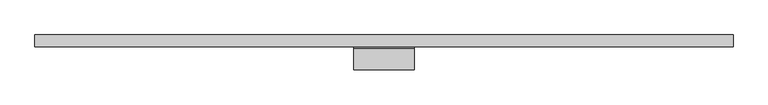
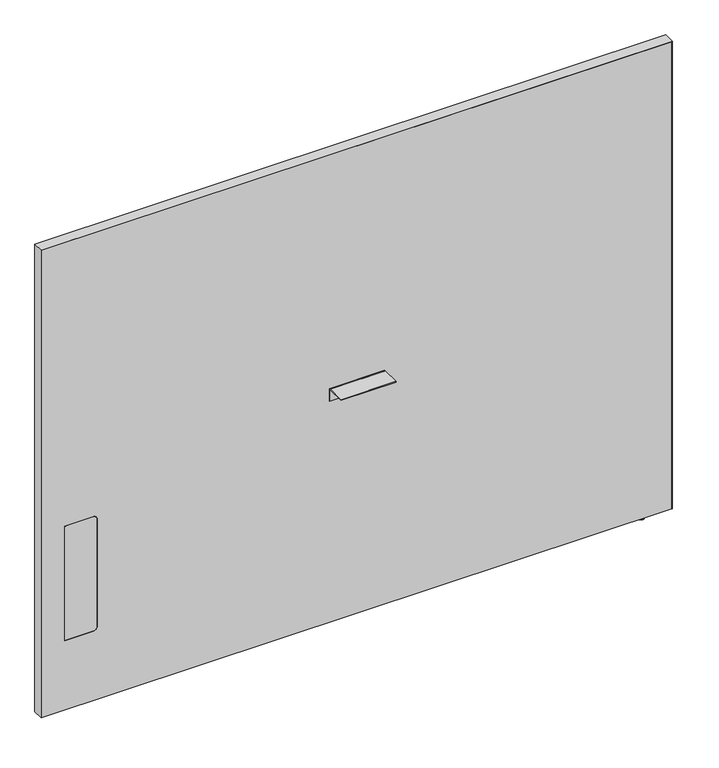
"""IFC4 building model written with IfcOpenShell, lengths in millimetres: furniture geometry, Steelcase - Answer Solution - Boundary Screen - Straight - Single Sided : 54H x 69W."""

import ifcopenshell
import ifcopenshell.guid

model = None  # the IFC model being written
_history = None  # IfcOwnerHistory: only IFC2X3 demands one
_inside = {}  # id of a spatial element -> (the spatial element, [elements in it])
_under = {}  # id of a project, library or spatial element -> (it, [spatial elements below it])
_declared = {}  # id of a project -> (the project, [libraries it declares])
_typed = {}  # id of a type object -> (the type object, [elements of that type])
_made_of = {}  # id of a material, layer set ... -> (it, [elements and type objects made of it])


def new_model(schema):
    """Start an empty IFC model of exactly this schema.

    Asked for "IFC4X3", IfcOpenShell would pick the latest addendum, in which some entities
    have other attributes; the version numbers below select the first issue.
    IFC2X3 requires an IfcOwnerHistory on every rooted entity: one is made here for all.
    """
    global model, _history
    if schema == "IFC4X3":
        model = ifcopenshell.file(schema_version=(4, 3, 0, 0))
    else:
        model = ifcopenshell.file(schema=schema)
    _inside.clear()
    _under.clear()
    _declared.clear()
    _typed.clear()
    _made_of.clear()
    _history = None
    if model.schema == "IFC2X3":
        org = make("IfcOrganization", Name="unknown")
        user = make(
            "IfcPersonAndOrganization",
            ThePerson=make("IfcPerson", FamilyName="unknown"),
            TheOrganization=org,
        )
        app = make(
            "IfcApplication",
            ApplicationDeveloper=org,
            Version="unknown",
            ApplicationFullName="unknown",
            ApplicationIdentifier="unknown",
        )
        _history = make(
            "IfcOwnerHistory",
            OwningUser=user,
            OwningApplication=app,
            ChangeAction="ADDED",
            CreationDate=0,
        )
    return model


def make(cls, **values):
    """One entity of the class cls with the attributes given. An attribute that is None is left unset."""
    return model.create_entity(
        cls, **{name: value for name, value in values.items() if value is not None}
    )


def rooted(cls, **values):
    """An entity with a GlobalId (a new one), such as an element, a storey or a relation."""
    return make(cls, GlobalId=ifcopenshell.guid.new(), OwnerHistory=_history, **values)


def si_unit(unit_type, name, prefix=None):
    """IfcSIUnit, for example si_unit("LENGTHUNIT", "METRE", prefix="MILLI")."""
    return make("IfcSIUnit", UnitType=unit_type, Prefix=prefix, Name=name)


def assignment(units):
    """IfcUnitAssignment: the units of a project."""
    return None if units is None else make("IfcUnitAssignment", Units=units)


def point(xyz):
    """IfcCartesianPoint."""
    return None if xyz is None else make("IfcCartesianPoint", Coordinates=xyz)


def direction(xyz):
    """IfcDirection."""
    return None if xyz is None else make("IfcDirection", DirectionRatios=xyz)


def frame(location, z_axis=None, x_axis=None):
    """IfcAxis2Placement3D, a coordinate frame: its origin and axes. An axis left out is left unset."""
    return make(
        "IfcAxis2Placement3D",
        Location=point(location),
        Axis=direction(z_axis),
        RefDirection=direction(x_axis),
    )


def frame_2d(location, x_axis=None):
    """IfcAxis2Placement2D, a coordinate frame in the plane: its origin and x axis."""
    return make(
        "IfcAxis2Placement2D", Location=point(location), RefDirection=direction(x_axis)
    )


def origin():
    """The frame at (0, 0, 0) with its axes left unset."""
    return frame((0.0, 0.0, 0.0))


def place(relative_to, where):
    """IfcLocalPlacement: puts the frame where relative to a parent placement (None: the world)."""
    return make(
        "IfcLocalPlacement", PlacementRelTo=relative_to, RelativePlacement=where
    )


def context(
    kind, dimensions, precision=None, world=None, true_north=None, identifier=None
):
    """IfcGeometricRepresentationContext, for example the 3D "Model" context."""
    return make(
        "IfcGeometricRepresentationContext",
        ContextIdentifier=identifier,
        ContextType=kind,
        CoordinateSpaceDimension=dimensions,
        Precision=precision,
        WorldCoordinateSystem=world,
        TrueNorth=true_north,
    )


def project(units=None, contexts=None):
    """IfcProject with its units and contexts."""
    return rooted(
        "IfcProject",
        Name="project",
        RepresentationContexts=contexts,
        UnitsInContext=assignment(units),
    )


def spatial(cls, under=None, at=None, **own):
    """A site, building, storey or space (cls), placed at a placement, below another one or the project."""
    s = rooted(cls, ObjectPlacement=at, **own)
    if under is not None:
        _under.setdefault(under.id(), (under, []))[1].append(s)
    return s


def polyline(points):
    """IfcPolyline through the points."""
    return make("IfcPolyline", Points=[point(p) for p in points])


def circle_curve(where, radius):
    """IfcCircle in the frame where."""
    return make("IfcCircle", Position=where, Radius=radius)


def ellipse_curve(where, semi_axis1, semi_axis2):
    """IfcEllipse in the frame where."""
    return make(
        "IfcEllipse", Position=where, SemiAxis1=semi_axis1, SemiAxis2=semi_axis2
    )


def trimmed(basis, trim1, trim2, sense, master):
    """IfcTrimmedCurve: the piece of a basis curve between two trims."""
    return make(
        "IfcTrimmedCurve",
        BasisCurve=basis,
        Trim1=trim1,
        Trim2=trim2,
        SenseAgreement=sense,
        MasterRepresentation=master,
    )


def segment(curve, same_sense, transition):
    """IfcCompositeCurveSegment."""
    return make(
        "IfcCompositeCurveSegment",
        Transition=transition,
        SameSense=same_sense,
        ParentCurve=curve,
    )


def composite_curve(segments, self_intersect=None):
    """IfcCompositeCurve: segments joined end to end."""
    return make("IfcCompositeCurve", Segments=segments, SelfIntersect=self_intersect)


def outline(outer, holes=None, kind="AREA"):
    """IfcArbitraryClosedProfileDef: a profile drawn as a closed curve; with holes, ...WithVoids."""
    if holes is None:
        return make("IfcArbitraryClosedProfileDef", ProfileType=kind, OuterCurve=outer)
    return make(
        "IfcArbitraryProfileDefWithVoids",
        ProfileType=kind,
        OuterCurve=outer,
        InnerCurves=holes,
    )


def extrude(swept, where, along, depth):
    """IfcExtrudedAreaSolid: the profile swept, set in the frame where, extruded along a direction by depth."""
    return make(
        "IfcExtrudedAreaSolid",
        SweptArea=swept,
        Position=where,
        ExtrudedDirection=direction(along),
        Depth=depth,
    )


def shape(context_of_items, identifier, shape_type, items):
    """IfcShapeRepresentation: the items that make up one representation, for example the "Body"."""
    return make(
        "IfcShapeRepresentation",
        ContextOfItems=context_of_items,
        RepresentationIdentifier=identifier,
        RepresentationType=shape_type,
        Items=items,
    )


def source(mapping_origin, context_of_items, identifier, shape_type, items):
    """IfcRepresentationMap: a shape defined once, which mapped items show again and again."""
    return make(
        "IfcRepresentationMap",
        MappingOrigin=mapping_origin,
        MappedRepresentation=shape(context_of_items, identifier, shape_type, items),
    )


def transform(
    local_origin,
    x_axis=None,
    y_axis=None,
    z_axis=None,
    scale=None,
    scale2=None,
    scale3=None,
    uniform=True,
):
    """IfcCartesianTransformationOperator3D, or its non-uniform kind. x_axis, y_axis, z_axis: its Axis1, 2, 3."""
    if uniform:
        return make(
            "IfcCartesianTransformationOperator3D",
            Axis1=direction(x_axis),
            Axis2=direction(y_axis),
            LocalOrigin=point(local_origin),
            Scale=scale,
            Axis3=direction(z_axis),
        )
    return make(
        "IfcCartesianTransformationOperator3DnonUniform",
        Axis1=direction(x_axis),
        Axis2=direction(y_axis),
        LocalOrigin=point(local_origin),
        Scale=scale,
        Axis3=direction(z_axis),
        Scale2=scale2,
        Scale3=scale3,
    )


def mapped(mapping_source, mapping_target):
    """IfcMappedItem: shows the shape of a source again, moved by a transform."""
    return make(
        "IfcMappedItem", MappingSource=mapping_source, MappingTarget=mapping_target
    )


def made_of(thing, what):
    """Note that an element or type object is made of a material, layer set ...; save() writes the relation."""
    if what is not None:
        _made_of.setdefault(what.id(), (what, []))[1].append(thing)
    return thing


def element(
    cls,
    number,
    at=None,
    inside=None,
    cuts=None,
    type_object=None,
    material=None,
    context=None,
    identifier="Body",
    shape_type=None,
    held_by="IfcProductDefinitionShape",
    body=None,
    shapes=None,
    **own,
):
    """One element of the class cls, such as IfcWall. Its Tag is "e" and its number.

    at: its placement. inside: the storey or other place that contains it. cuts: it is an
    opening in that element (IfcRelVoidsElement). A single representation is given by context,
    identifier, shape_type and body (its items); several are given by shapes. held_by: the class
    of the entity that holds the representations. save() writes the other relations.
    """
    e = rooted(cls, Tag="e%d" % number, ObjectPlacement=at, **own)
    if body is not None:
        shapes = [shape(context, identifier, shape_type, body)]
    if shapes is not None:
        e.Representation = make(held_by, Representations=shapes)
    if inside is not None:
        _inside.setdefault(inside.id(), (inside, []))[1].append(e)
    if cuts is not None:
        rooted(
            "IfcRelVoidsElement", RelatingBuildingElement=cuts, RelatedOpeningElement=e
        )
    if type_object is not None:
        _typed.setdefault(type_object.id(), (type_object, []))[1].append(e)
    return made_of(e, material)


def aggregate(whole, parts):
    """IfcRelAggregates: a whole, such as a stair, and the parts it consists of."""
    return rooted("IfcRelAggregates", RelatingObject=whole, RelatedObjects=parts)


def save(model, path):
    """Write the relations noted so far, then the file.

    IfcRelAggregates (storeys below a building ...), IfcRelContainedInSpatialStructure (elements
    in a storey), IfcRelDefinesByType, IfcRelAssociatesMaterial and IfcRelDeclares: one each for
    every whole, place, type object, material and project.
    """
    for whole, parts in _under.values():
        aggregate(whole, parts)
    for where, things in _inside.values():
        rooted(
            "IfcRelContainedInSpatialStructure",
            RelatedElements=things,
            RelatingStructure=where,
        )
    for kind, things in _typed.values():
        rooted("IfcRelDefinesByType", RelatedObjects=things, RelatingType=kind)
    for what, things in _made_of.values():
        rooted("IfcRelAssociatesMaterial", RelatedObjects=things, RelatingMaterial=what)
    for by, libraries in _declared.values():
        rooted("IfcRelDeclares", RelatingContext=by, RelatedDefinitions=libraries)
    model.write(path)


def plane_surface(at):
    """IfcPlane: the flat surface through the origin of the frame at, square to its z axis."""
    return make("IfcPlane", Position=at)


def cylinder_surface(at, radius):
    """IfcCylindricalSurface: all points at the distance radius from the z axis of the frame at."""
    return make("IfcCylindricalSurface", Position=at, Radius=radius)


def revolved_surface(curve, axis_point, axis_direction):
    """IfcSurfaceOfRevolution: the curve turned about the line through axis_point along axis_direction."""
    return make(
        "IfcSurfaceOfRevolution",
        SweptCurve=make("IfcArbitraryOpenProfileDef", ProfileType="CURVE", Curve=curve),
        AxisPosition=make("IfcAxis1Placement", Location=point(axis_point), Axis=direction(axis_direction)),
    )


def advanced_brep(points, edges, surfaces, faces):
    """IfcAdvancedBrep: a solid bounded by faces that lie on surfaces and meet in shared edges.

    An edge is (start, end): straight between two places in points (the first is 0);
    or (start, end, curve); or (start, end, curve, False) where it runs against its curve.
    A face is (place in surfaces, loops), or (place, loops, False) where it looks against
    its surface's normal. A loop lists edges by number (the first is 1), with a minus sign
    where the edge is run from its end to its start. The first loop is the outer one.
    """
    corners = [point(p) for p in points]
    vertices = [make("IfcVertexPoint", VertexGeometry=c) for c in corners]
    made = []
    for start, end, *more in edges:
        made.append(
            make(
                "IfcEdgeCurve",
                EdgeStart=vertices[start],
                EdgeEnd=vertices[end],
                EdgeGeometry=more[0] if more else make("IfcPolyline", Points=[corners[start], corners[end]]),
                SameSense=more[1] if len(more) > 1 else True,
            )
        )
    hull = []
    for where, loops, *sense in faces:
        bounds = []
        for j, loop in enumerate(loops):
            ring = [make("IfcOrientedEdge", EdgeElement=made[abs(k) - 1], Orientation=k > 0) for k in loop]
            bounds.append(
                make(
                    "IfcFaceOuterBound" if j == 0 else "IfcFaceBound",
                    Bound=make("IfcEdgeLoop", EdgeList=ring),
                    Orientation=True,
                )
            )
        hull.append(make("IfcAdvancedFace", Bounds=bounds, FaceSurface=surfaces[where], SameSense=sense[0] if sense else True))
    return make("IfcAdvancedBrep", Outer=make("IfcClosedShell", CfsFaces=hull))


def furniture_8ace9f98(model_context):
    return source(origin(), model_context, "Body", "SolidModel", [
        extrude(outline(composite_curve([segment(polyline([(-86.8398151, 696.4680019), (-86.8398151, 698.5), (-34.9450855, 698.5)]), True, "CONTINUOUS"), segment(trimmed(circle_curve(frame_2d((-34.9450855, 693.2447477)), 5.2552523), [point((-34.9450855, 698.5))], [point((-29.6898332, 693.2447477))], False, "CARTESIAN"), True, "CONTINUOUS"), segment(polyline([(-29.6898332, 693.2447477), (-29.6898332, 660.4), (-31.7218162, 660.4), (-31.7218162, 693.0058743)]), True, "CONTINUOUS"), segment(trimmed(circle_curve(frame_2d((-35.1839438, 693.0058743)), 3.4621276), [point((-31.7218162, 693.0058743))], [point((-35.1839438, 696.4680019))], True, "CARTESIAN"), True, "CONTINUOUS"), segment(polyline([(-35.1839438, 696.4680019), (-86.8398151, 696.4680019)]), True, "CONTINUOUS")], self_intersect=False)), frame((153.6191407, 0.0, 0.0), z_axis=(1.0, 0.0, 0.0), x_axis=(0.0, 1.0, 0.0)), (0.0, 0.0, 1.0), 152.4000969),
        advanced_brep(
        [(1028.9286488, -23.7588726, 9.9059849), (1028.9286488, -5.9309607, 9.9059849), (1028.9286488, -14.8449166, 9.9059849), (1028.9286488, -23.7588726, 2.9673238), (1028.9286488, -5.9309607, 2.9673238), (1028.9286488, -22.7915354, 2.9673238), (1028.9286488, -6.8982978, 2.9673238), (1028.9286488, -22.7915354, 1.6569081), (1028.9286488, -6.8982978, 1.6569081), (1028.9286488, -21.1346274, 0.0), (1028.9286488, -8.5552059, 0.0), (1028.9286488, -14.8449166, 0.0)],
        [
            (0, 1, circle_curve(frame((1028.9286488, -14.8449166, 9.9059849), z_axis=(0.0, 0.0, 1.0), x_axis=(0.0, 1.0, 0.0)), 8.913956)),
            (1, 2),
            (2, 0),
            (1, 0, circle_curve(frame((1028.9286488, -14.8449166, 9.9059849), z_axis=(0.0, 0.0, 1.0), x_axis=(0.0, 1.0, 0.0)), 8.913956)),
            (3, 4, circle_curve(frame((1028.9286488, -14.8449166, 2.9673238), z_axis=(0.0, 0.0, 1.0), x_axis=(0.0, 1.0, 0.0)), 8.913956)),
            (4, 1),
            (0, 3),
            (4, 3, circle_curve(frame((1028.9286488, -14.8449166, 2.9673238), z_axis=(0.0, 0.0, 1.0), x_axis=(0.0, 1.0, 0.0)), 8.913956)),
            (5, 6, circle_curve(frame((1028.9286488, -14.8449166, 2.9673238), z_axis=(0.0, 0.0, 1.0), x_axis=(0.0, 1.0, 0.0)), 7.9466188)),
            (6, 4),
            (3, 5),
            (6, 5, circle_curve(frame((1028.9286488, -14.8449166, 2.9673238), z_axis=(0.0, 0.0, 1.0), x_axis=(0.0, 1.0, 0.0)), 7.9466188)),
            (7, 8, circle_curve(frame((1028.9286488, -14.8449166, 1.6569081), z_axis=(0.0, 0.0, 1.0), x_axis=(0.0, 1.0, 0.0)), 7.9466188)),
            (8, 6),
            (5, 7),
            (8, 7, circle_curve(frame((1028.9286488, -14.8449166, 1.6569081), z_axis=(0.0, 0.0, 1.0), x_axis=(0.0, 1.0, 0.0)), 7.9466188)),
            (9, 10, circle_curve(frame((1028.9286488, -14.8449166, 0.0), z_axis=(0.0, 0.0, 1.0), x_axis=(0.0, 1.0, 0.0)), 6.2897107)),
            (10, 8, circle_curve(frame((1028.9286488, -8.5552059, 1.6569081), z_axis=(1.0, 0.0, 0.0), x_axis=(0.0, 1.0, 0.0)), 1.6569081)),
            (7, 9, circle_curve(frame((1028.9286488, -21.1346274, 1.6569081), z_axis=(1.0, 0.0, 0.0), x_axis=(0.0, -1.0, 0.0)), 1.6569081)),
            (10, 9, circle_curve(frame((1028.9286488, -14.8449166, 0.0), z_axis=(0.0, 0.0, 1.0), x_axis=(0.0, 1.0, 0.0)), 6.2897107)),
            (11, 10),
            (9, 11),
        ],
        [
            plane_surface(frame((1028.9286488, -14.8449166, 9.9059849), z_axis=(0.0, 0.0, 1.0), x_axis=(0.0, 1.0, 0.0))),
            cylinder_surface(frame((1028.9286488, -14.8449166, 9.9059849), z_axis=(0.0, 0.0, -1.0), x_axis=(0.0, 1.0, 0.0)), 8.913956),
            plane_surface(frame((1028.9286488, -14.8449166, 2.9673238), z_axis=(0.0, 0.0, -1.0), x_axis=(0.0, 1.0, 0.0))),
            cylinder_surface(frame((1028.9286488, -14.8449166, 9.9059849), z_axis=(0.0, 0.0, -1.0), x_axis=(0.0, 1.0, 0.0)), 7.9466188),
            revolved_surface(trimmed(ellipse_curve(frame((1028.9286488, -8.5552059, 1.6569081), z_axis=(-1.0, 0.0, 0.0), x_axis=(0.0, 1.0, 0.0)), 1.6569081, 1.6569081), [point((1028.9286488, -6.8982978, 1.6569081))], [point((1028.9286488, -8.5552059, 0.0))], True, "CARTESIAN"), (1028.9286488, -14.8449166, 9.9059849), (0.0, 0.0, -1.0)),
            plane_surface(frame((1028.9286488, -14.8449166, 0.0), z_axis=(0.0, 0.0, -1.0), x_axis=(0.0, 1.0, 0.0))),
        ],
        [
            (0, [[1, 2, 3]]),
            (0, [[4, -3, -2]]),
            (1, [[5, 6, -1, 7]]),
            (1, [[8, -7, -4, -6]]),
            (2, [[9, 10, -5, 11]]),
            (2, [[12, -11, -8, -10]]),
            (3, [[13, 14, -9, 15]]),
            (3, [[16, -15, -12, -14]]),
            (4, [[17, 18, -13, 19]]),
            (4, [[20, -19, -16, -18]]),
            (5, [[21, -17, 22]]),
            (5, [[-22, -20, -21]]),
        ],
    ),
        advanced_brep(
        [(1105.0780168, 0.0, 1381.542118), (1105.0780168, 0.0, 9.9059849), (-645.4902221, 0.0, 9.9059849), (-645.4902221, 0.0, 1381.542118), (1105.0780168, -29.6898332, 1381.542118), (-645.4902221, -29.6898332, 1381.542118), (-645.4902221, -29.6898332, 9.9059849), (1105.0780168, -29.6898332, 9.9059849), (-501.1463873, -29.6898332, 549.6162029), (-490.9863873, -29.6898332, 539.4562029), (-490.9863873, -29.6898332, 223.9362137), (-501.1463873, -29.6898332, 213.7762137), (-580.800285, -29.6898332, 213.7762137), (-580.800285, -29.6898332, 549.6162029), (-580.800285, -29.0550397, 549.6162029), (-501.1463873, -29.0550397, 549.6162029), (-580.800285, -29.0550397, 213.7762137), (-501.1463873, -29.0550397, 213.7762137), (-490.9863873, -29.0550397, 223.9362137), (-490.9863873, -29.0550397, 539.4562029)],
        [
            (0, 1),
            (1, 2),
            (2, 3),
            (3, 0),
            (4, 5),
            (5, 6),
            (6, 7),
            (7, 4),
            (8, 9, circle_curve(frame((-501.1463873, -29.6898332, 539.4562029), z_axis=(0.0, 1.0, 0.0), x_axis=(0.0, 0.0, 1.0)), 10.16)),
            (9, 10),
            (10, 11, circle_curve(frame((-501.1463873, -29.6898332, 223.9362137), z_axis=(0.0, 1.0, 0.0), x_axis=(0.0, 0.0, 1.0)), 10.16)),
            (11, 12),
            (12, 13),
            (13, 8),
            (0, 4),
            (7, 1),
            (6, 2),
            (5, 3),
            (13, 14),
            (14, 15),
            (15, 8),
            (12, 16),
            (16, 14),
            (11, 17),
            (17, 16),
            (10, 18),
            (18, 17, circle_curve(frame((-501.1463873, -29.0550397, 223.9362137), z_axis=(0.0, 1.0, 0.0), x_axis=(0.0, 0.0, 1.0)), 10.16)),
            (9, 19),
            (19, 18),
            (15, 19, circle_curve(frame((-501.1463873, -29.0550397, 539.4562029), z_axis=(0.0, 1.0, 0.0), x_axis=(0.0, 0.0, 1.0)), 10.16)),
        ],
        [
            plane_surface(frame((1105.0780168, 0.0, 1381.542118), z_axis=(0.0, 1.0, 0.0), x_axis=(0.0, 0.0, -1.0))),
            plane_surface(frame((1105.0780168, -29.6898332, 1381.542118), z_axis=(0.0, -1.0, 0.0), x_axis=(0.0, 0.0, 1.0))),
            plane_surface(frame((1105.0780168, 0.0, 1381.542118), z_axis=(1.0, 0.0, 0.0), x_axis=(0.0, -1.0, 0.0))),
            plane_surface(frame((1105.0780168, 0.0, 9.9059849), z_axis=(0.0, 0.0, -1.0), x_axis=(0.0, -1.0, 0.0))),
            plane_surface(frame((-645.4902221, 0.0, 9.9059849), z_axis=(-1.0, 0.0, 0.0), x_axis=(0.0, -1.0, 0.0))),
            plane_surface(frame((-645.4902221, 0.0, 1381.542118), z_axis=(0.0, 0.0, 1.0), x_axis=(0.0, -1.0, 0.0))),
            plane_surface(frame((-501.1463873, 0.0, 549.6162029), z_axis=(0.0, 0.0, -1.0), x_axis=(0.0, -1.0, 0.0))),
            plane_surface(frame((-580.800285, 0.0, 549.6162029), z_axis=(1.0, 0.0, 0.0), x_axis=(0.0, -1.0, 0.0))),
            plane_surface(frame((-580.800285, 0.0, 213.7762137), z_axis=(0.0, 0.0, 1.0), x_axis=(0.0, -1.0, 0.0))),
            revolved_surface(polyline([(-501.1463873, -29.6898332, 234.0962137), (-501.1463873, -29.0550397, 234.0962137)]), (-501.1463873, -29.6898332, 223.9362137), (0.0, -1.0, 0.0)),
            plane_surface(frame((-490.9863873, 0.0, 223.9362137), z_axis=(-1.0, 0.0, 0.0), x_axis=(0.0, -1.0, 0.0))),
            revolved_surface(polyline([(-501.1463873, -29.6898332, 549.6162029), (-501.1463873, -29.0550397, 549.6162029)]), (-501.1463873, -29.6898332, 539.4562029), (0.0, -1.0, 0.0)),
            plane_surface(frame((-490.9863873, -29.0550397, 629.172953), z_axis=(0.0, -1.0, 0.0), x_axis=(0.0, 0.0, 1.0))),
        ],
        [
            (0, [[1, 2, 3, 4]]),
            (1, [[5, 6, 7, 8], [9, 10, 11, 12, 13, 14]]),
            (2, [[-1, 15, -8, 16]]),
            (3, [[-2, -16, -7, 17]]),
            (4, [[-3, -17, -6, 18]]),
            (5, [[-4, -18, -5, -15]]),
            (6, [[-14, 19, 20, 21]]),
            (7, [[-13, 22, 23, -19]]),
            (8, [[-12, 24, 25, -22]]),
            (9, [[-11, 26, 27, -24]]),
            (10, [[-10, 28, 29, -26]]),
            (11, [[-9, -21, 30, -28]]),
            (12, [[-20, -23, -25, -27, -29, -30]]),
        ],
    ),
        extrude(outline(composite_curve([segment(polyline([(549.6162029, -501.1463873), (549.6162029, -580.800285), (213.7762137, -580.800285), (213.7762137, -501.1463873)]), True, "CONTINUOUS"), segment(trimmed(circle_curve(frame_2d((223.9362137, -501.1463873)), 10.16), [point((213.7762137, -501.1463873))], [point((223.9362137, -490.9863873))], False, "CARTESIAN"), True, "CONTINUOUS"), segment(polyline([(223.9362137, -490.9863873), (539.4562029, -490.9863873)]), True, "CONTINUOUS"), segment(trimmed(circle_curve(frame_2d((539.4562029, -501.1463873)), 10.16), [point((539.4562029, -490.9863873))], [point((549.6162029, -501.1463873))], False, "CARTESIAN"), True, "CONTINUOUS")], self_intersect=False)), frame((0.0, -29.6898332, 0.0), z_axis=(0.0, 1.0, 0.0), x_axis=(0.0, 0.0, 1.0)), (0.0, 0.0, 1.0), 0.6347935),
        extrude(outline(polyline([(1382.522, 1106.1191891), (1382.522, -646.4808109), (9.9059849, -646.4808109), (9.9059849, -645.4902221), (1381.542118, -645.4902221), (1381.542118, 1105.0780168), (9.9059849, 1105.0780168), (9.9059849, 1106.1191891), (1382.522, 1106.1191891)])), frame((0.0, -29.6898332, 0.0), z_axis=(0.0, 1.0, 0.0), x_axis=(0.0, 0.0, 1.0)), (0.0, 0.0, 1.0), 29.6898332),
    ])


if __name__ == "__main__":
    model = new_model("IFC4")
    model_context = context("Model", 3, world=origin())
    ifc_project = project(units=[si_unit("LENGTHUNIT", "METRE", prefix="MILLI")], contexts=[model_context])
    site = spatial("IfcSite", under=ifc_project)
    building = spatial("IfcBuilding", under=site)
    placement = place(None, origin())
    furniture_shape = furniture_8ace9f98(model_context)
    element("IfcFurniture", 1, ObjectType="Steelcase - Answer Solution - Boundary Screen - Straight - Single Sided : 54H x 69W", at=placement, inside=building, context=model_context, shape_type="MappedRepresentation", body=[
        mapped(furniture_shape, transform((0.0, 0.0, 0.0), x_axis=(1.0, 0.0, 0.0), y_axis=(0.0, 1.0, 0.0), z_axis=(0.0, 0.0, 1.0))),
    ])
    save(model, "model.ifc")
